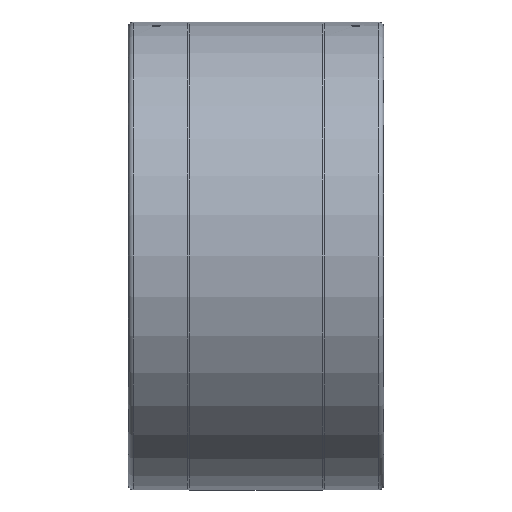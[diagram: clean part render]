
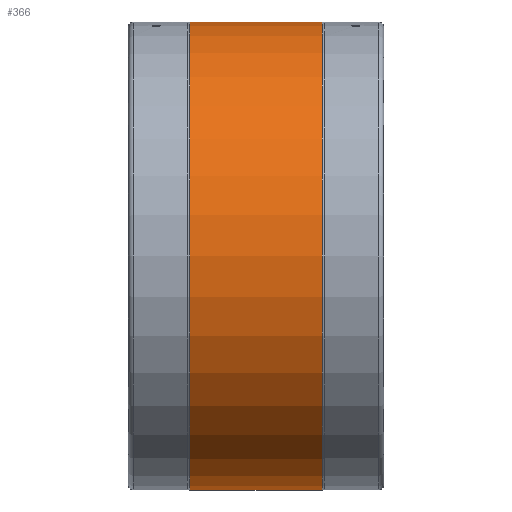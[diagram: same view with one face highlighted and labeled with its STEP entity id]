
A CAD part, front view. The second image highlights one B-rep face of the part: STEP entity #366.
In plain terms, the highlighted cylindrical face has radius 458 mm (diameter 916 mm), a full revolution.
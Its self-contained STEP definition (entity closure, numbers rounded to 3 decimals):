
#41=CYLINDRICAL_SURFACE('',#420,458.);
#66=ORIENTED_EDGE('',*,*,#131,.T.);
#67=ORIENTED_EDGE('',*,*,#130,.F.);
#130=EDGE_CURVE('',#164,#164,#194,.T.);
#131=EDGE_CURVE('',#165,#165,#195,.T.);
#164=VERTEX_POINT('',#671);
#165=VERTEX_POINT('',#674);
#194=CIRCLE('',#419,458.);
#195=CIRCLE('',#421,458.);
#226=EDGE_LOOP('',(#66));
#227=EDGE_LOOP('',(#67));
#294=FACE_BOUND('',#226,.T.);
#295=FACE_BOUND('',#227,.T.);
#366=ADVANCED_FACE('',(#294,#295),#41,.T.);
#419=AXIS2_PLACEMENT_3D('',#670,#487,#488);
#420=AXIS2_PLACEMENT_3D('',#672,#489,#490);
#421=AXIS2_PLACEMENT_3D('',#673,#491,#492);
#487=DIRECTION('',(-1.,0.,0.));
#488=DIRECTION('',(0.,0.,1.));
#489=DIRECTION('',(-1.,0.,0.));
#490=DIRECTION('',(0.,0.,1.));
#491=DIRECTION('',(-1.,0.,0.));
#492=DIRECTION('',(0.,0.,1.));
#670=CARTESIAN_POINT('',(-130.,0.,0.));
#671=CARTESIAN_POINT('',(-130.,0.,458.));
#672=CARTESIAN_POINT('',(-221.69,0.,0.));
#673=CARTESIAN_POINT('',(130.,0.,0.));
#674=CARTESIAN_POINT('',(130.,0.,458.));
